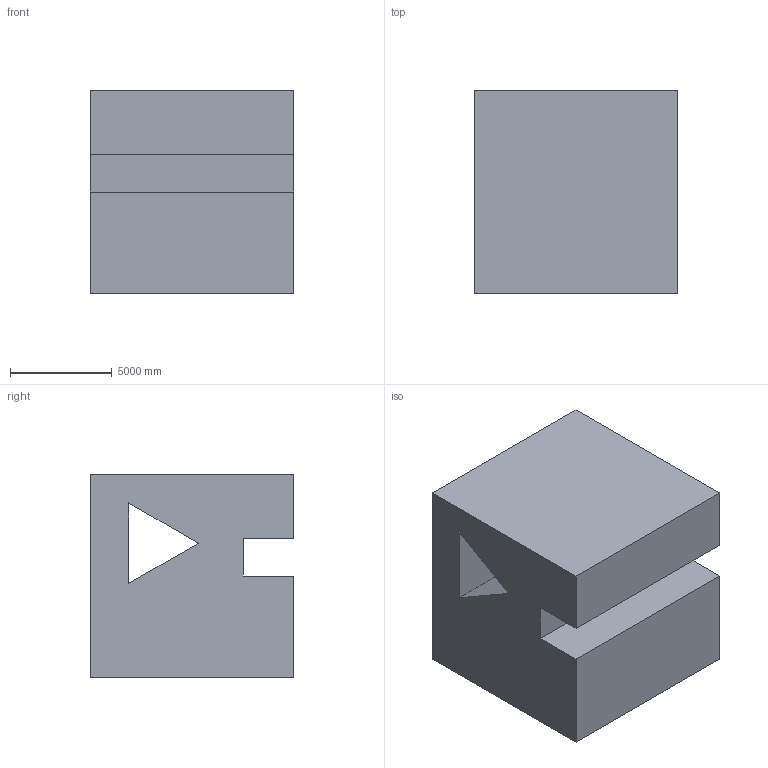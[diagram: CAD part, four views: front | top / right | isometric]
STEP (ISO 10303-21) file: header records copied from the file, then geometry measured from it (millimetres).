
FILE_DESCRIPTION (( 'STEP AP203' ), '1' );
FILE_NAME ('214.STEP', '2022-09-07T12:19:01', ( 'user' ), ( '' ), 'SwSTEP 2.0', 'SolidWorks 2021', '' );
FILE_SCHEMA (( 'CONFIG_CONTROL_DESIGN' ));
Length unit declared in the file: centimetre
Products named in the file (1): 214
Bounding box: 10000 x 10000 x 10000 mm (x, y, z)
Volume: 886277729552.7 mm3; surface area: 745562531.4 mm2
Topology: 1 solids, 1 shells, 13 faces, 33 edges, 22 vertices
Faces by surface type: plane 13
Entity records: 468 total; most frequent: CARTESIAN_POINT 69, ORIENTED_EDGE 66, DIRECTION 61, EDGE_CURVE 33, VECTOR 33, LINE 33, VERTEX_POINT 22, EDGE_LOOP 15
